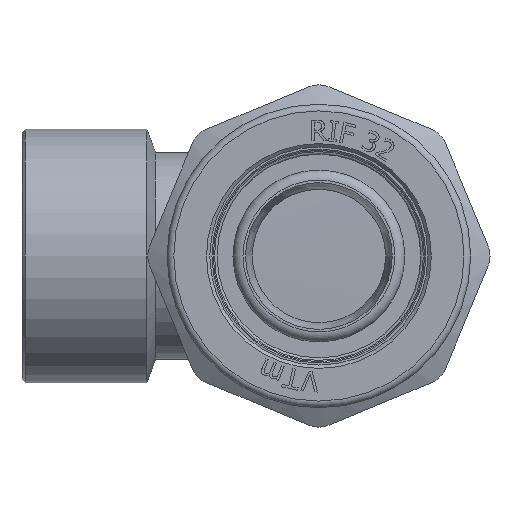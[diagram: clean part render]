
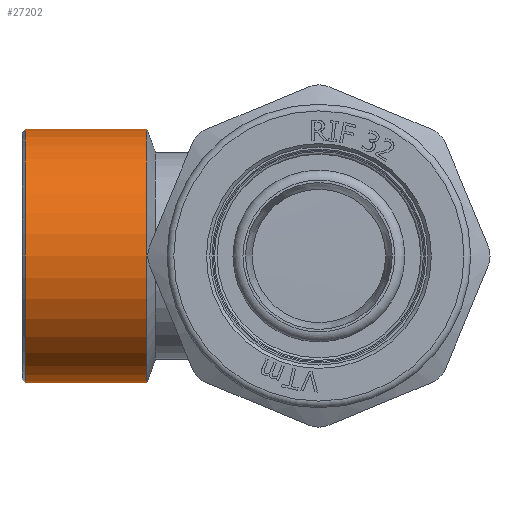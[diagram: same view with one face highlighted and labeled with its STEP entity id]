
A CAD part, left-side view. The second image highlights one B-rep face of the part: STEP entity #27202.
In plain terms, the highlighted cylindrical face has radius 19 mm (diameter 38 mm), a full revolution.
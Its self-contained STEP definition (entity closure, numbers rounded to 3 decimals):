
#1882=CIRCLE('',#28380,19.);
#1883=CIRCLE('',#28381,19.);
#1884=CIRCLE('',#28383,19.);
#1885=CIRCLE('',#28384,19.);
#3404=FACE_OUTER_BOUND('',#4960,.T.);
#4960=EDGE_LOOP('',(#25215,#25216,#25217,#25218,#25219,#25220));
#8529=LINE('',#65486,#10315);
#10315=VECTOR('',#32526,19.);
#13035=VERTEX_POINT('',#65476);
#13036=VERTEX_POINT('',#65477);
#13037=VERTEX_POINT('',#65482);
#13038=VERTEX_POINT('',#65483);
#17134=EDGE_CURVE('',#13035,#13036,#1882,.T.);
#17135=EDGE_CURVE('',#13036,#13035,#1883,.T.);
#17137=EDGE_CURVE('',#13037,#13038,#1884,.T.);
#17138=EDGE_CURVE('',#13038,#13037,#1885,.T.);
#17139=EDGE_CURVE('',#13038,#13036,#8529,.T.);
#25215=ORIENTED_EDGE('',*,*,#17137,.F.);
#25216=ORIENTED_EDGE('',*,*,#17138,.F.);
#25217=ORIENTED_EDGE('',*,*,#17139,.T.);
#25218=ORIENTED_EDGE('',*,*,#17135,.T.);
#25219=ORIENTED_EDGE('',*,*,#17134,.T.);
#25220=ORIENTED_EDGE('',*,*,#17139,.F.);
#25786=CYLINDRICAL_SURFACE('',#28382,19.);
#27202=ADVANCED_FACE('',(#3404),#25786,.T.);
#28380=AXIS2_PLACEMENT_3D('',#65478,#32515,#32516);
#28381=AXIS2_PLACEMENT_3D('',#65479,#32517,#32518);
#28382=AXIS2_PLACEMENT_3D('',#65481,#32520,#32521);
#28383=AXIS2_PLACEMENT_3D('',#65484,#32522,#32523);
#28384=AXIS2_PLACEMENT_3D('',#65485,#32524,#32525);
#32515=DIRECTION('center_axis',(0.,-1.,0.));
#32516=DIRECTION('ref_axis',(1.,0.,0.));
#32517=DIRECTION('center_axis',(0.,-1.,0.));
#32518=DIRECTION('ref_axis',(1.,0.,0.));
#32520=DIRECTION('center_axis',(0.,-1.,0.));
#32521=DIRECTION('ref_axis',(1.,0.,0.));
#32522=DIRECTION('center_axis',(0.,-1.,0.));
#32523=DIRECTION('ref_axis',(1.,0.,0.));
#32524=DIRECTION('center_axis',(0.,-1.,0.));
#32525=DIRECTION('ref_axis',(1.,0.,0.));
#32526=DIRECTION('',(0.,1.,0.));
#65476=CARTESIAN_POINT('',(19.,44.,0.));
#65477=CARTESIAN_POINT('',(-19.,44.,0.));
#65478=CARTESIAN_POINT('Origin',(0.,44.,0.));
#65479=CARTESIAN_POINT('Origin',(0.,44.,0.));
#65481=CARTESIAN_POINT('Origin',(0.,34.886,
0.));
#65482=CARTESIAN_POINT('',(19.,25.772,0.));
#65483=CARTESIAN_POINT('',(-19.,25.772,0.));
#65484=CARTESIAN_POINT('Origin',(0.,25.772,
0.));
#65485=CARTESIAN_POINT('Origin',(0.,25.772,
0.));
#65486=CARTESIAN_POINT('',(-19.,34.886,0.));
